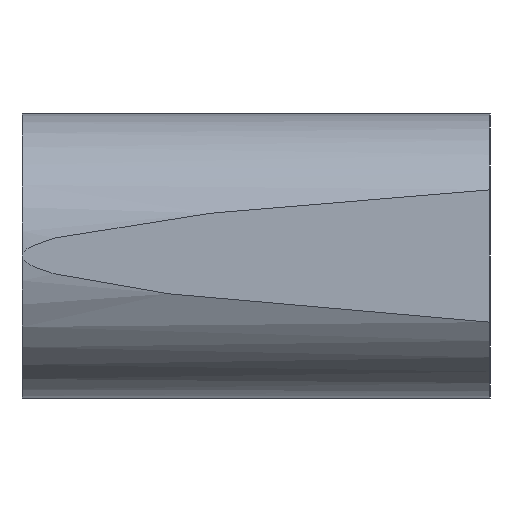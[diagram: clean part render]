
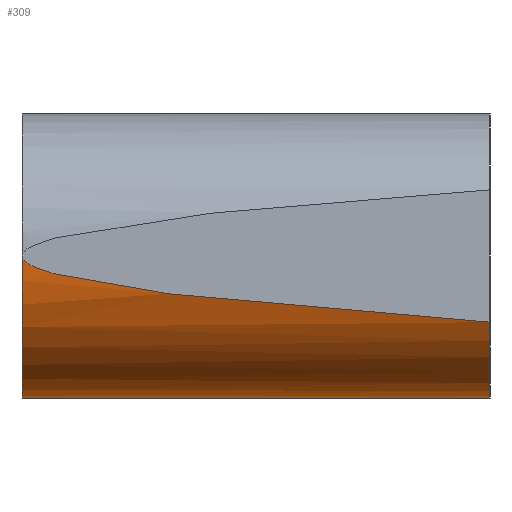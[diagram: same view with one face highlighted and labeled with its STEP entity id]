
A CAD part, left-side view. The second image highlights one B-rep face of the part: STEP entity #309.
In plain terms, the highlighted cylindrical face has radius 8.5 mm (diameter 17 mm), a partial arc.
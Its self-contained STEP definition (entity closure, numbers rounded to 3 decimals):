
#125 = EDGE_CURVE( '', #215, #175, #335, .T. );
#127 = VERTEX_POINT( '', #337 );
#151 = VERTEX_POINT( '', #364 );
#175 = VERTEX_POINT( '', #390 );
#215 = VERTEX_POINT( '', #436 );
#243 = EDGE_CURVE( '', #127, #215, #467, .T. );
#255 = EDGE_CURVE( '', #175, #151, #479, .T. );
#273 = EDGE_CURVE( '', #127, #151, #500, .T. );
#309 = ADVANCED_FACE( '', ( #539 ), #540, .T. );
#335 = ELLIPSE( '', #560, 243.557, 8.5 );
#337 = CARTESIAN_POINT( '', ( 3.5, -28., -8.5 ) );
#364 = CARTESIAN_POINT( '', ( 3.5, 0., -8.5 ) );
#390 = CARTESIAN_POINT( '', ( -5., 0., 0. ) );
#436 = CARTESIAN_POINT( '', ( -4.022, -28., -3.958 ) );
#467 = CIRCLE( '', #731, 8.5 );
#479 = CIRCLE( '', #749, 8.5 );
#500 = LINE( '', #778, #779 );
#539 = FACE_OUTER_BOUND( '', #830, .T. );
#540 = CYLINDRICAL_SURFACE( '', #831, 8.5 );
#560 = AXIS2_PLACEMENT_3D( '', #841, #842, #843 );
#731 = AXIS2_PLACEMENT_3D( '', #1004, #1005, #1006 );
#749 = AXIS2_PLACEMENT_3D( '', #1012, #1013, #1014 );
#778 = CARTESIAN_POINT( '', ( 3.5, -28., -8.5 ) );
#779 = VECTOR( '', #1045, 1. );
#830 = EDGE_LOOP( '', ( #1083, #1084, #1085, #1086 ) );
#831 = AXIS2_PLACEMENT_3D( '', #1087, #1088, #1089 );
#841 = CARTESIAN_POINT( '', ( 3.5, -243.408, 0. ) );
#842 = DIRECTION( '', ( 0.999, 0.035, 0. ) );
#843 = DIRECTION( '', ( -0.035, 0.999, 0. ) );
#1004 = CARTESIAN_POINT( '', ( 3.5, -28., 0. ) );
#1005 = DIRECTION( '', ( 0., 1., 0. ) );
#1006 = DIRECTION( '', ( 0., 0., -1. ) );
#1012 = CARTESIAN_POINT( '', ( 3.5, 0., 0. ) );
#1013 = DIRECTION( '', ( 0., -1., 0. ) );
#1014 = DIRECTION( '', ( 0., 0., -1. ) );
#1045 = DIRECTION( '', ( 0., 1., 0. ) );
#1083 = ORIENTED_EDGE( '', *, *, #125, .T. );
#1084 = ORIENTED_EDGE( '', *, *, #255, .T. );
#1085 = ORIENTED_EDGE( '', *, *, #273, .F. );
#1086 = ORIENTED_EDGE( '', *, *, #243, .T. );
#1087 = CARTESIAN_POINT( '', ( 3.5, -28., 0. ) );
#1088 = DIRECTION( '', ( 0., -1., 0. ) );
#1089 = DIRECTION( '', ( 0., 0., -1. ) );
